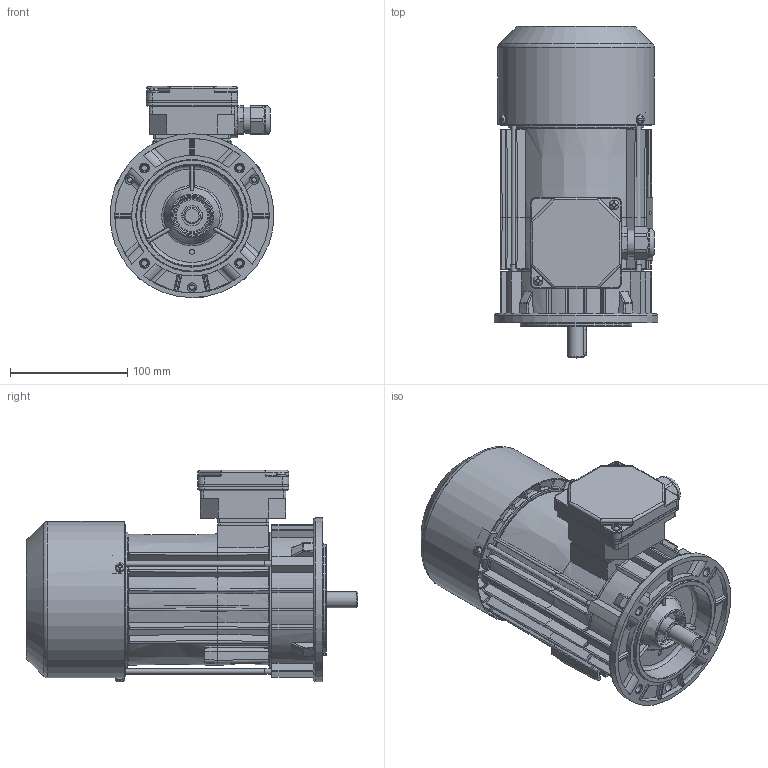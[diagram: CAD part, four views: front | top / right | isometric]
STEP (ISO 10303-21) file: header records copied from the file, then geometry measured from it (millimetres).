
FILE_DESCRIPTION(/* description */ ('Unknown'),/* implementation_level */ '2;1');
FILE_NAME(/* name */ '3SIEK71-8B1',/* time_stamp */ '2021-02-03T14:53:05+01:00',/* author */ ('Unknown'),/* organization */ ('Unknown'),/* preprocessor_version */ 'ST-DEVELOPER v16.7',/* originating_system */ 'Solid Edge',/* authorisation */ 'Unknown');
FILE_SCHEMA (('AUTOMOTIVE_DESIGN {1 0 10303 214 3 1 1}'));
Products named in the file (1): 3SIEK71-8B1
Bounding box: 140 x 283.48 x 180.57 mm (x, y, z)
Volume: 732330.8 mm3; surface area: 440833.8 mm2
Topology: 2 solids, 2 shells, 2533 faces, 6880 edges, 4375 vertices
Faces by surface type: plane 1033, cylinder 710, bspline 377, torus 209, cone 172, sphere 32
Full cylindrical faces by diameter (mm): 2 x2, 2.4 x2, 3.7 x4, 3.8 x4, 4 x3, 4.134 x3, 4.4 x3, 4.8 x2, 5 x5, 5.1 x3, 5.5 x3, 6.8 x4, 7 x1, 8 x6, 13.599 x1, 13.999 x1, 15.898 x1, 16.098 x1, 16.498 x1, 16.998 x2, 17.4 x2, 21.998 x2, 22.3 x1, 22.498 x1, 22.648 x1, 22.998 x1, 23.048 x1, 24.496 x4, 25 x1, 27 x1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
Entity records: 105126 total; most frequent: CARTESIAN_POINT 27909, ORIENTED_EDGE 13018, DIRECTION 11461, EDGE_CURVE 6509, AXIS2_PLACEMENT_3D 4380, VERTEX_POINT 4248, EDGE_LOOP 2955, FACE_BOUND 2955
